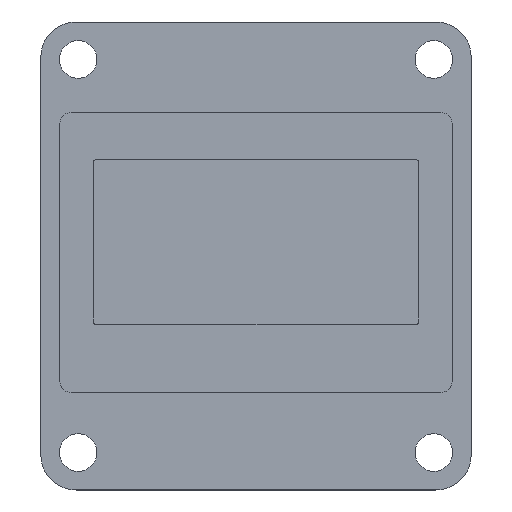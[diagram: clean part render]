
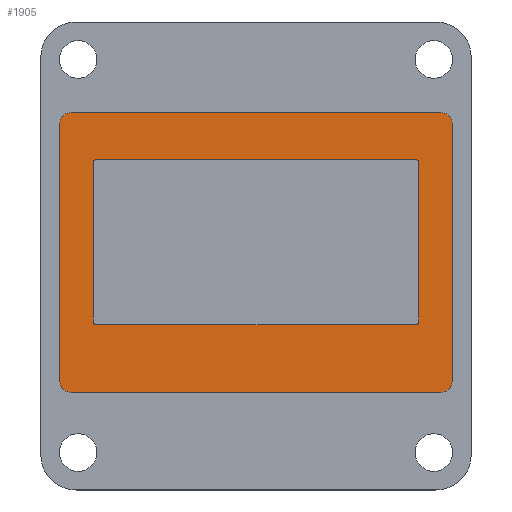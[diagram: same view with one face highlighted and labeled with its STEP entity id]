
A CAD part, top view. The second image highlights one B-rep face of the part: STEP entity #1905.
In plain terms, the highlighted planar face has unit normal (0, 0, 1).
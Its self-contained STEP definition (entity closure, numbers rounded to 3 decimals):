
#1789 = EDGE_CURVE('',#1790,#1792,#1794,.T.);
#1790 = VERTEX_POINT('',#1791);
#1791 = CARTESIAN_POINT('',(-13.3,-21.85,6.9));
#1792 = VERTEX_POINT('',#1793);
#1793 = CARTESIAN_POINT('',(-13.3,-4.35,6.9));
#1794 = SURFACE_CURVE('',#1795,(#1799,#1811),.PCURVE_S1.);
#1795 = LINE('',#1796,#1797);
#1796 = CARTESIAN_POINT('',(-13.3,-22.6,6.9));
#1797 = VECTOR('',#1798,1.);
#1798 = DIRECTION('',(0.,1.,0.));
#1799 = PCURVE('',#1800,#1805);
#1800 = PLANE('',#1801);
#1801 = AXIS2_PLACEMENT_3D('',#1802,#1803,#1804);
#1802 = CARTESIAN_POINT('',(-13.3,-22.6,5.4));
#1803 = DIRECTION('',(1.,0.,0.));
#1804 = DIRECTION('',(0.,0.,1.));
#1805 = DEFINITIONAL_REPRESENTATION('',(#1806),#1810);
#1806 = LINE('',#1807,#1808);
#1807 = CARTESIAN_POINT('',(1.5,0.));
#1808 = VECTOR('',#1809,1.);
#1809 = DIRECTION('',(0.,-1.));
#1810 = ( GEOMETRIC_REPRESENTATION_CONTEXT(2) 
PARAMETRIC_REPRESENTATION_CONTEXT() REPRESENTATION_CONTEXT('2D SPACE',''
  ) );
#1811 = PCURVE('',#1812,#1817);
#1812 = PLANE('',#1813);
#1813 = AXIS2_PLACEMENT_3D('',#1814,#1815,#1816);
#1814 = CARTESIAN_POINT('',(-13.3,-22.6,6.9));
#1815 = DIRECTION('',(0.,0.,1.));
#1816 = DIRECTION('',(1.,0.,0.));
#1817 = DEFINITIONAL_REPRESENTATION('',(#1818),#1822);
#1818 = LINE('',#1819,#1820);
#1819 = CARTESIAN_POINT('',(0.,0.));
#1820 = VECTOR('',#1821,1.);
#1821 = DIRECTION('',(0.,1.));
#1822 = ( GEOMETRIC_REPRESENTATION_CONTEXT(2) 
PARAMETRIC_REPRESENTATION_CONTEXT() REPRESENTATION_CONTEXT('2D SPACE',''
  ) );
#1840 = CYLINDRICAL_SURFACE('',#1841,0.75);
#1841 = AXIS2_PLACEMENT_3D('',#1842,#1843,#1844);
#1842 = CARTESIAN_POINT('',(-12.55,-21.85,5.4));
#1843 = DIRECTION('',(0.,0.,1.));
#1844 = DIRECTION('',(-1.,-0.,0.));
#1894 = CYLINDRICAL_SURFACE('',#1895,0.75);
#1895 = AXIS2_PLACEMENT_3D('',#1896,#1897,#1898);
#1896 = CARTESIAN_POINT('',(-12.55,-4.35,5.4));
#1897 = DIRECTION('',(0.,0.,1.));
#1898 = DIRECTION('',(-1.,-0.,0.));
#1905 = ADVANCED_FACE('',(#1906),#1812,.T.);
#1906 = FACE_BOUND('',#1907,.T.);
#1907 = EDGE_LOOP('',(#1908,#1909,#1933,#1961,#1994,#2022,#2051,#2079));
#1908 = ORIENTED_EDGE('',*,*,#1789,.F.);
#1909 = ORIENTED_EDGE('',*,*,#1910,.T.);
#1910 = EDGE_CURVE('',#1790,#1911,#1913,.T.);
#1911 = VERTEX_POINT('',#1912);
#1912 = CARTESIAN_POINT('',(-12.55,-22.6,6.9));
#1913 = SURFACE_CURVE('',#1914,(#1919,#1926),.PCURVE_S1.);
#1914 = CIRCLE('',#1915,0.75);
#1915 = AXIS2_PLACEMENT_3D('',#1916,#1917,#1918);
#1916 = CARTESIAN_POINT('',(-12.55,-21.85,6.9));
#1917 = DIRECTION('',(0.,0.,1.));
#1918 = DIRECTION('',(0.,-1.,0.));
#1919 = PCURVE('',#1812,#1920);
#1920 = DEFINITIONAL_REPRESENTATION('',(#1921),#1925);
#1921 = CIRCLE('',#1922,0.75);
#1922 = AXIS2_PLACEMENT_2D('',#1923,#1924);
#1923 = CARTESIAN_POINT('',(0.75,0.75));
#1924 = DIRECTION('',(0.,-1.));
#1925 = ( GEOMETRIC_REPRESENTATION_CONTEXT(2) 
PARAMETRIC_REPRESENTATION_CONTEXT() REPRESENTATION_CONTEXT('2D SPACE',''
  ) );
#1926 = PCURVE('',#1840,#1927);
#1927 = DEFINITIONAL_REPRESENTATION('',(#1928),#1932);
#1928 = LINE('',#1929,#1930);
#1929 = CARTESIAN_POINT('',(-4.712,1.5));
#1930 = VECTOR('',#1931,1.);
#1931 = DIRECTION('',(1.,0.));
#1932 = ( GEOMETRIC_REPRESENTATION_CONTEXT(2) 
PARAMETRIC_REPRESENTATION_CONTEXT() REPRESENTATION_CONTEXT('2D SPACE',''
  ) );
#1933 = ORIENTED_EDGE('',*,*,#1934,.T.);
#1934 = EDGE_CURVE('',#1911,#1935,#1937,.T.);
#1935 = VERTEX_POINT('',#1936);
#1936 = CARTESIAN_POINT('',(12.55,-22.6,6.9));
#1937 = SURFACE_CURVE('',#1938,(#1942,#1949),.PCURVE_S1.);
#1938 = LINE('',#1939,#1940);
#1939 = CARTESIAN_POINT('',(-13.3,-22.6,6.9));
#1940 = VECTOR('',#1941,1.);
#1941 = DIRECTION('',(1.,0.,0.));
#1942 = PCURVE('',#1812,#1943);
#1943 = DEFINITIONAL_REPRESENTATION('',(#1944),#1948);
#1944 = LINE('',#1945,#1946);
#1945 = CARTESIAN_POINT('',(0.,0.));
#1946 = VECTOR('',#1947,1.);
#1947 = DIRECTION('',(1.,0.));
#1948 = ( GEOMETRIC_REPRESENTATION_CONTEXT(2) 
PARAMETRIC_REPRESENTATION_CONTEXT() REPRESENTATION_CONTEXT('2D SPACE',''
  ) );
#1949 = PCURVE('',#1950,#1955);
#1950 = PLANE('',#1951);
#1951 = AXIS2_PLACEMENT_3D('',#1952,#1953,#1954);
#1952 = CARTESIAN_POINT('',(-13.3,-22.6,5.4));
#1953 = DIRECTION('',(0.,1.,0.));
#1954 = DIRECTION('',(0.,0.,1.));
#1955 = DEFINITIONAL_REPRESENTATION('',(#1956),#1960);
#1956 = LINE('',#1957,#1958);
#1957 = CARTESIAN_POINT('',(1.5,0.));
#1958 = VECTOR('',#1959,1.);
#1959 = DIRECTION('',(0.,1.));
#1960 = ( GEOMETRIC_REPRESENTATION_CONTEXT(2) 
PARAMETRIC_REPRESENTATION_CONTEXT() REPRESENTATION_CONTEXT('2D SPACE',''
  ) );
#1961 = ORIENTED_EDGE('',*,*,#1962,.F.);
#1962 = EDGE_CURVE('',#1963,#1935,#1965,.T.);
#1963 = VERTEX_POINT('',#1964);
#1964 = CARTESIAN_POINT('',(13.3,-21.85,6.9));
#1965 = SURFACE_CURVE('',#1966,(#1971,#1982),.PCURVE_S1.);
#1966 = CIRCLE('',#1967,0.75);
#1967 = AXIS2_PLACEMENT_3D('',#1968,#1969,#1970);
#1968 = CARTESIAN_POINT('',(12.55,-21.85,6.9));
#1969 = DIRECTION('',(-0.,-0.,-1.));
#1970 = DIRECTION('',(0.,-1.,0.));
#1971 = PCURVE('',#1812,#1972);
#1972 = DEFINITIONAL_REPRESENTATION('',(#1973),#1981);
#1973 = ( BOUNDED_CURVE() B_SPLINE_CURVE(2,(#1974,#1975,#1976,#1977,
#1978,#1979,#1980),.UNSPECIFIED.,.T.,.F.) B_SPLINE_CURVE_WITH_KNOTS((1,2
    ,2,2,2,1),(-2.094,0.,2.094,4.189,
6.283,8.378),.UNSPECIFIED.) CURVE() 
GEOMETRIC_REPRESENTATION_ITEM() RATIONAL_B_SPLINE_CURVE((1.,0.5,1.,0.5,
1.,0.5,1.)) REPRESENTATION_ITEM('') );
#1974 = CARTESIAN_POINT('',(25.85,0.));
#1975 = CARTESIAN_POINT('',(24.551,0.));
#1976 = CARTESIAN_POINT('',(25.2,1.125));
#1977 = CARTESIAN_POINT('',(25.85,2.25));
#1978 = CARTESIAN_POINT('',(26.5,1.125));
#1979 = CARTESIAN_POINT('',(27.149,0.));
#1980 = CARTESIAN_POINT('',(25.85,0.));
#1981 = ( GEOMETRIC_REPRESENTATION_CONTEXT(2) 
PARAMETRIC_REPRESENTATION_CONTEXT() REPRESENTATION_CONTEXT('2D SPACE',''
  ) );
#1982 = PCURVE('',#1983,#1988);
#1983 = CYLINDRICAL_SURFACE('',#1984,0.75);
#1984 = AXIS2_PLACEMENT_3D('',#1985,#1986,#1987);
#1985 = CARTESIAN_POINT('',(12.55,-21.85,5.4));
#1986 = DIRECTION('',(0.,0.,1.));
#1987 = DIRECTION('',(1.,0.,-0.));
#1988 = DEFINITIONAL_REPRESENTATION('',(#1989),#1993);
#1989 = LINE('',#1990,#1991);
#1990 = CARTESIAN_POINT('',(4.712,1.5));
#1991 = VECTOR('',#1992,1.);
#1992 = DIRECTION('',(-1.,0.));
#1993 = ( GEOMETRIC_REPRESENTATION_CONTEXT(2) 
PARAMETRIC_REPRESENTATION_CONTEXT() REPRESENTATION_CONTEXT('2D SPACE',''
  ) );
#1994 = ORIENTED_EDGE('',*,*,#1995,.T.);
#1995 = EDGE_CURVE('',#1963,#1996,#1998,.T.);
#1996 = VERTEX_POINT('',#1997);
#1997 = CARTESIAN_POINT('',(13.3,-4.35,6.9));
#1998 = SURFACE_CURVE('',#1999,(#2003,#2010),.PCURVE_S1.);
#1999 = LINE('',#2000,#2001);
#2000 = CARTESIAN_POINT('',(13.3,-22.6,6.9));
#2001 = VECTOR('',#2002,1.);
#2002 = DIRECTION('',(0.,1.,0.));
#2003 = PCURVE('',#1812,#2004);
#2004 = DEFINITIONAL_REPRESENTATION('',(#2005),#2009);
#2005 = LINE('',#2006,#2007);
#2006 = CARTESIAN_POINT('',(26.6,0.));
#2007 = VECTOR('',#2008,1.);
#2008 = DIRECTION('',(0.,1.));
#2009 = ( GEOMETRIC_REPRESENTATION_CONTEXT(2) 
PARAMETRIC_REPRESENTATION_CONTEXT() REPRESENTATION_CONTEXT('2D SPACE',''
  ) );
#2010 = PCURVE('',#2011,#2016);
#2011 = PLANE('',#2012);
#2012 = AXIS2_PLACEMENT_3D('',#2013,#2014,#2015);
#2013 = CARTESIAN_POINT('',(13.3,-22.6,5.4));
#2014 = DIRECTION('',(1.,0.,0.));
#2015 = DIRECTION('',(0.,0.,1.));
#2016 = DEFINITIONAL_REPRESENTATION('',(#2017),#2021);
#2017 = LINE('',#2018,#2019);
#2018 = CARTESIAN_POINT('',(1.5,0.));
#2019 = VECTOR('',#2020,1.);
#2020 = DIRECTION('',(0.,-1.));
#2021 = ( GEOMETRIC_REPRESENTATION_CONTEXT(2) 
PARAMETRIC_REPRESENTATION_CONTEXT() REPRESENTATION_CONTEXT('2D SPACE',''
  ) );
#2022 = ORIENTED_EDGE('',*,*,#2023,.T.);
#2023 = EDGE_CURVE('',#1996,#2024,#2026,.T.);
#2024 = VERTEX_POINT('',#2025);
#2025 = CARTESIAN_POINT('',(12.55,-3.6,6.9));
#2026 = SURFACE_CURVE('',#2027,(#2032,#2039),.PCURVE_S1.);
#2027 = CIRCLE('',#2028,0.75);
#2028 = AXIS2_PLACEMENT_3D('',#2029,#2030,#2031);
#2029 = CARTESIAN_POINT('',(12.55,-4.35,6.9));
#2030 = DIRECTION('',(0.,0.,1.));
#2031 = DIRECTION('',(0.,-1.,0.));
#2032 = PCURVE('',#1812,#2033);
#2033 = DEFINITIONAL_REPRESENTATION('',(#2034),#2038);
#2034 = CIRCLE('',#2035,0.75);
#2035 = AXIS2_PLACEMENT_2D('',#2036,#2037);
#2036 = CARTESIAN_POINT('',(25.85,18.25));
#2037 = DIRECTION('',(0.,-1.));
#2038 = ( GEOMETRIC_REPRESENTATION_CONTEXT(2) 
PARAMETRIC_REPRESENTATION_CONTEXT() REPRESENTATION_CONTEXT('2D SPACE',''
  ) );
#2039 = PCURVE('',#2040,#2045);
#2040 = CYLINDRICAL_SURFACE('',#2041,0.75);
#2041 = AXIS2_PLACEMENT_3D('',#2042,#2043,#2044);
#2042 = CARTESIAN_POINT('',(12.55,-4.35,5.4));
#2043 = DIRECTION('',(0.,0.,1.));
#2044 = DIRECTION('',(1.,0.,-0.));
#2045 = DEFINITIONAL_REPRESENTATION('',(#2046),#2050);
#2046 = LINE('',#2047,#2048);
#2047 = CARTESIAN_POINT('',(-1.571,1.5));
#2048 = VECTOR('',#2049,1.);
#2049 = DIRECTION('',(1.,0.));
#2050 = ( GEOMETRIC_REPRESENTATION_CONTEXT(2) 
PARAMETRIC_REPRESENTATION_CONTEXT() REPRESENTATION_CONTEXT('2D SPACE',''
  ) );
#2051 = ORIENTED_EDGE('',*,*,#2052,.F.);
#2052 = EDGE_CURVE('',#2053,#2024,#2055,.T.);
#2053 = VERTEX_POINT('',#2054);
#2054 = CARTESIAN_POINT('',(-12.55,-3.6,6.9));
#2055 = SURFACE_CURVE('',#2056,(#2060,#2067),.PCURVE_S1.);
#2056 = LINE('',#2057,#2058);
#2057 = CARTESIAN_POINT('',(-13.3,-3.6,6.9));
#2058 = VECTOR('',#2059,1.);
#2059 = DIRECTION('',(1.,0.,0.));
#2060 = PCURVE('',#1812,#2061);
#2061 = DEFINITIONAL_REPRESENTATION('',(#2062),#2066);
#2062 = LINE('',#2063,#2064);
#2063 = CARTESIAN_POINT('',(0.,19.));
#2064 = VECTOR('',#2065,1.);
#2065 = DIRECTION('',(1.,0.));
#2066 = ( GEOMETRIC_REPRESENTATION_CONTEXT(2) 
PARAMETRIC_REPRESENTATION_CONTEXT() REPRESENTATION_CONTEXT('2D SPACE',''
  ) );
#2067 = PCURVE('',#2068,#2073);
#2068 = PLANE('',#2069);
#2069 = AXIS2_PLACEMENT_3D('',#2070,#2071,#2072);
#2070 = CARTESIAN_POINT('',(-13.3,-3.6,5.4));
#2071 = DIRECTION('',(0.,1.,0.));
#2072 = DIRECTION('',(0.,0.,1.));
#2073 = DEFINITIONAL_REPRESENTATION('',(#2074),#2078);
#2074 = LINE('',#2075,#2076);
#2075 = CARTESIAN_POINT('',(1.5,0.));
#2076 = VECTOR('',#2077,1.);
#2077 = DIRECTION('',(0.,1.));
#2078 = ( GEOMETRIC_REPRESENTATION_CONTEXT(2) 
PARAMETRIC_REPRESENTATION_CONTEXT() REPRESENTATION_CONTEXT('2D SPACE',''
  ) );
#2079 = ORIENTED_EDGE('',*,*,#2080,.F.);
#2080 = EDGE_CURVE('',#1792,#2053,#2081,.T.);
#2081 = SURFACE_CURVE('',#2082,(#2087,#2098),.PCURVE_S1.);
#2082 = CIRCLE('',#2083,0.75);
#2083 = AXIS2_PLACEMENT_3D('',#2084,#2085,#2086);
#2084 = CARTESIAN_POINT('',(-12.55,-4.35,6.9));
#2085 = DIRECTION('',(-0.,-0.,-1.));
#2086 = DIRECTION('',(0.,-1.,0.));
#2087 = PCURVE('',#1812,#2088);
#2088 = DEFINITIONAL_REPRESENTATION('',(#2089),#2097);
#2089 = ( BOUNDED_CURVE() B_SPLINE_CURVE(2,(#2090,#2091,#2092,#2093,
#2094,#2095,#2096),.UNSPECIFIED.,.T.,.F.) B_SPLINE_CURVE_WITH_KNOTS((1,2
    ,2,2,2,1),(-2.094,0.,2.094,4.189,
6.283,8.378),.UNSPECIFIED.) CURVE() 
GEOMETRIC_REPRESENTATION_ITEM() RATIONAL_B_SPLINE_CURVE((1.,0.5,1.,0.5,
1.,0.5,1.)) REPRESENTATION_ITEM('') );
#2090 = CARTESIAN_POINT('',(0.75,17.5));
#2091 = CARTESIAN_POINT('',(-0.549,17.5));
#2092 = CARTESIAN_POINT('',(0.1,18.625));
#2093 = CARTESIAN_POINT('',(0.75,19.75));
#2094 = CARTESIAN_POINT('',(1.4,18.625));
#2095 = CARTESIAN_POINT('',(2.049,17.5));
#2096 = CARTESIAN_POINT('',(0.75,17.5));
#2097 = ( GEOMETRIC_REPRESENTATION_CONTEXT(2) 
PARAMETRIC_REPRESENTATION_CONTEXT() REPRESENTATION_CONTEXT('2D SPACE',''
  ) );
#2098 = PCURVE('',#1894,#2099);
#2099 = DEFINITIONAL_REPRESENTATION('',(#2100),#2104);
#2100 = LINE('',#2101,#2102);
#2101 = CARTESIAN_POINT('',(1.571,1.5));
#2102 = VECTOR('',#2103,1.);
#2103 = DIRECTION('',(-1.,0.));
#2104 = ( GEOMETRIC_REPRESENTATION_CONTEXT(2) 
PARAMETRIC_REPRESENTATION_CONTEXT() REPRESENTATION_CONTEXT('2D SPACE',''
  ) );
